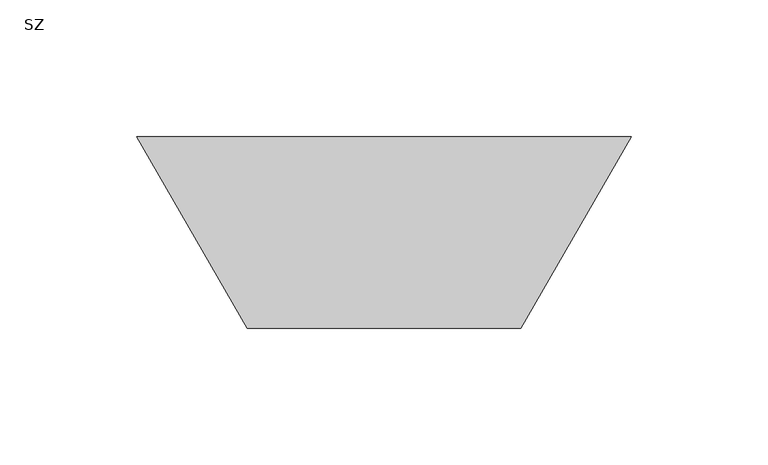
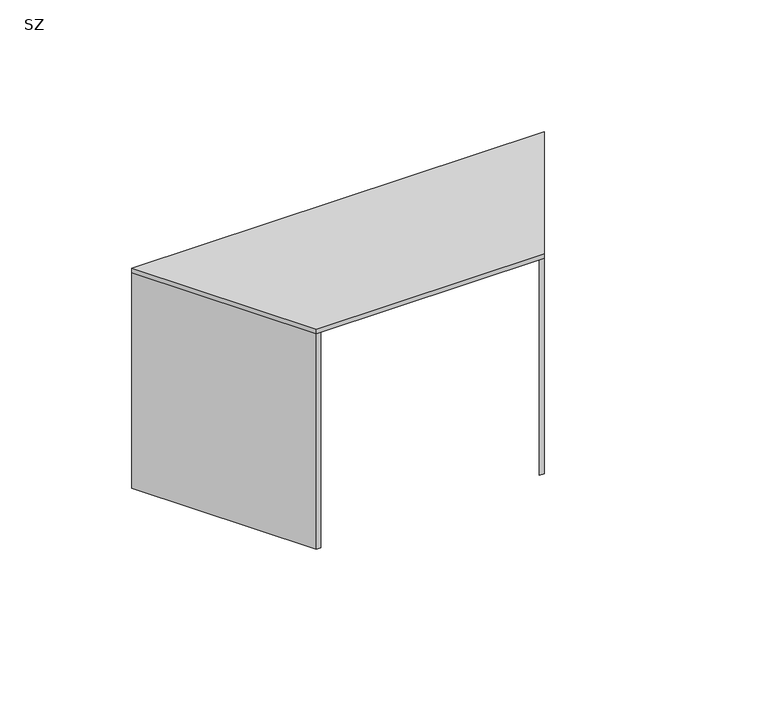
"""IFC4 building model written with IfcOpenShell, lengths in millimetres: cable carrier fitting geometry, IEK_Листовой_Отвод Т-обр : SZ."""

from ifc_helpers import new_model, si_unit, frame, origin, place, context, project, spatial, polyline, outline, extrude, source, transform, mapped, element, save


def sz_04c1168c(model_context):
    return source(origin(), model_context, "Body", "SweptSolid", [
        extrude(outline(polyline([(-50.0, -120.0), (-90.4145188, -50.0), (90.4145188, -50.0), (50.0, -120.0), (-50.0, -120.0)])), frame((0.0, 0.0, 50.0), z_axis=(0.0, 0.0, 1.0), x_axis=(1.0, 0.0, 0.0)), (0.0, 0.0, 1.0), 2.0016553),
        extrude(outline(polyline([(-50.0, -120.0), (-90.4145188, -50.0), (-88.3878008, -50.0), (-47.973282, -120.0), (-50.0, -120.0)])), frame((0.0, 0.0, -50.0), z_axis=(0.0, 0.0, 1.0), x_axis=(1.0, 0.0, 0.0)), (0.0, 0.0, 1.0), 100.0),
        extrude(outline(polyline([(50.0, -120.0), (47.9579377, -120.0), (88.3724566, -50.0), (90.4145188, -50.0), (50.0, -120.0)])), frame((0.0, 0.0, -50.0), z_axis=(0.0, 0.0, 1.0), x_axis=(1.0, 0.0, 0.0)), (0.0, 0.0, 1.0), 100.0),
    ])


if __name__ == "__main__":
    model = new_model("IFC4")
    model_context = context("Model", 3, world=origin())
    ifc_project = project(units=[si_unit("LENGTHUNIT", "METRE", prefix="MILLI")], contexts=[model_context])
    site = spatial("IfcSite", under=ifc_project)
    building = spatial("IfcBuilding", under=site)
    placement = place(None, origin())
    sz_shape = sz_04c1168c(model_context)
    element("IfcCableCarrierFitting", 1, ObjectType="IEK_Листовой_Отвод Т-обр : SZ", at=placement, inside=building, context=model_context, shape_type="MappedRepresentation", body=[
        mapped(sz_shape, transform((0.0, 0.0, 0.0), x_axis=(1.0, 0.0, 0.0), y_axis=(0.0, 1.0, 0.0), z_axis=(0.0, 0.0, 1.0))),
    ])
    save(model, "model.ifc")
